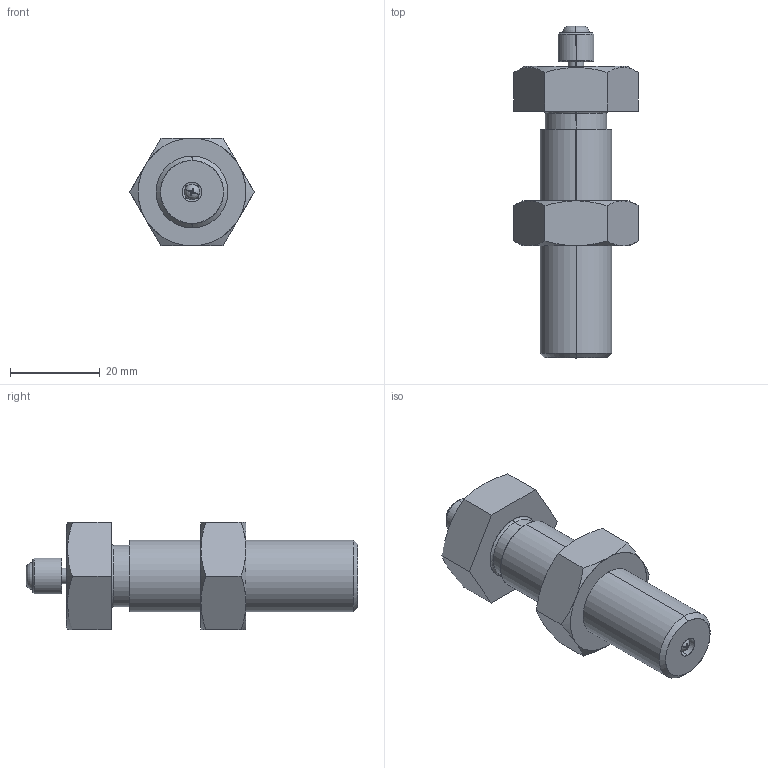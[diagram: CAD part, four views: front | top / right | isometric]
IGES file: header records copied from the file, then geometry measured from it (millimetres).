
Start section: SolidWorks IGES file using analytic representation for surfaces
Bounding box: 27.71 x 74 x 24 mm (x, y, z)
Surface area: 6927.7 mm2 (no closed solid volume)
Topology: 0 solids, 0 shells, 73 faces, 1030 edges, 1030 vertices
Faces by surface type: revolution 40, bspline 33
